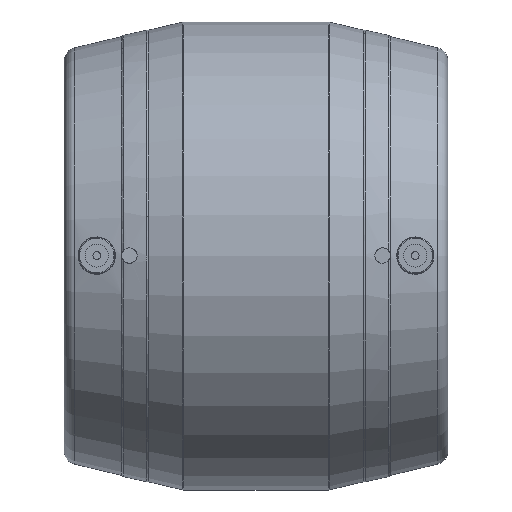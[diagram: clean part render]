
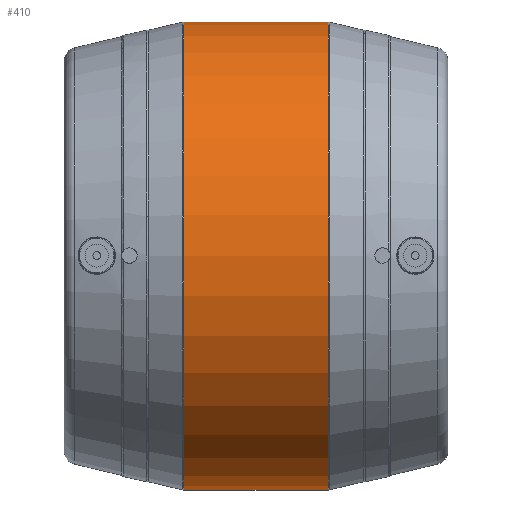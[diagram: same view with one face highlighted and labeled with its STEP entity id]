
A CAD part, top view. The second image highlights one B-rep face of the part: STEP entity #410.
In plain terms, the highlighted cylindrical face has radius 122 mm (diameter 244 mm), a full revolution.
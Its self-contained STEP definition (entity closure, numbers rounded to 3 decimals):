
#31=CYLINDRICAL_SURFACE('',#471,122.);
#81=ORIENTED_EDGE('',*,*,#165,.T.);
#82=ORIENTED_EDGE('',*,*,#166,.T.);
#165=EDGE_CURVE('',#209,#209,#242,.F.);
#166=EDGE_CURVE('',#210,#210,#243,.T.);
#209=VERTEX_POINT('',#752);
#210=VERTEX_POINT('',#754);
#242=CIRCLE('',#472,122.);
#243=CIRCLE('',#473,122.);
#280=EDGE_LOOP('',(#81));
#281=EDGE_LOOP('',(#82));
#346=FACE_BOUND('',#280,.T.);
#347=FACE_BOUND('',#281,.T.);
#410=ADVANCED_FACE('',(#346,#347),#31,.T.);
#471=AXIS2_PLACEMENT_3D('',#750,#561,#562);
#472=AXIS2_PLACEMENT_3D('',#751,#563,#564);
#473=AXIS2_PLACEMENT_3D('',#753,#565,#566);
#561=DIRECTION('',(-1.,0.,0.));
#562=DIRECTION('',(0.,0.,1.));
#563=DIRECTION('',(1.,0.,0.));
#564=DIRECTION('',(0.,0.,-1.));
#565=DIRECTION('',(1.,0.,0.));
#566=DIRECTION('',(0.,0.,-1.));
#750=CARTESIAN_POINT('',(-60.,0.,0.));
#751=CARTESIAN_POINT('',(37.765,0.,0.));
#752=CARTESIAN_POINT('',(37.765,0.,-122.));
#753=CARTESIAN_POINT('',(-37.765,0.,0.));
#754=CARTESIAN_POINT('',(-37.765,0.,-122.));
